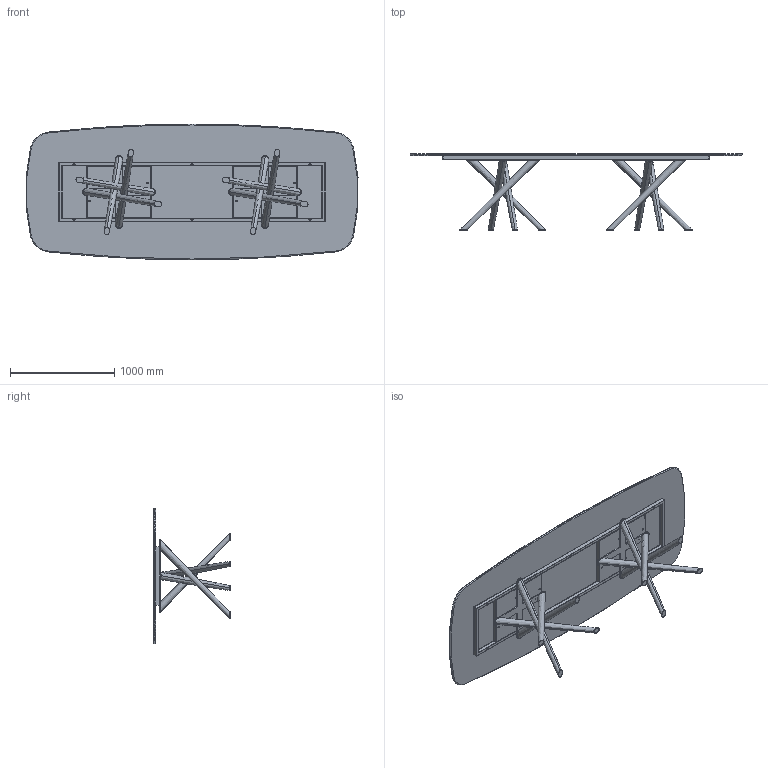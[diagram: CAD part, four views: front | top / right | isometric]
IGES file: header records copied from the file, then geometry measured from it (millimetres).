
Start section: SolidWorks IGES file using analytic representation for surfaces
Global section: file name: Y:\eforma\TECNICO\SOLIDWORKS\E-FORMA\1-TAVOLI\BALY\02 parts\BA47C.IGS; native system: SolidWorks 2022; preprocessor: SolidWorks 2022; author: eforma.tech; date: 240808.082521; units: millimetre
Bounding box: 3179.54 x 731 x 1300 mm (x, y, z)
Volume: 70794783.9 mm3; surface area: 21907362.5 mm2
Topology: 23 solids, 23 shells, 581 faces, 1423 edges, 882 vertices
Faces by surface type: revolution 293, plane 272, bspline 16
